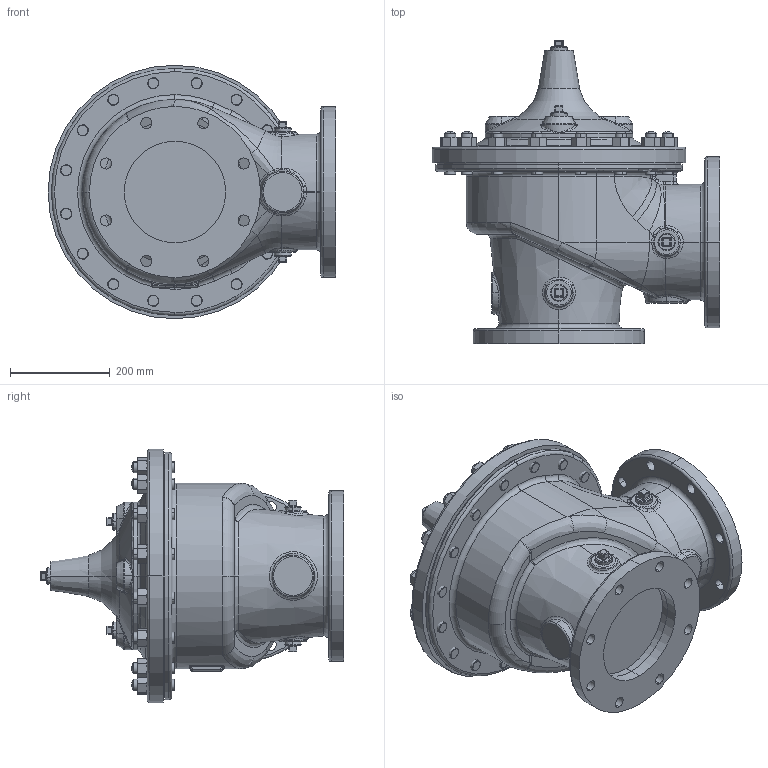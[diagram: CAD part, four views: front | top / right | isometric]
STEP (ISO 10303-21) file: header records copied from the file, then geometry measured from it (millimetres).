
FILE_DESCRIPTION (( 'STEP AP203' ), '1' );
FILE_NAME ('8in 100-01 Main Valve 150AA.STEP', '2016-07-14T17:15:37', ( '' ), ( '' ), 'SwSTEP 2.0', 'SolidWorks 2016', '' );
FILE_SCHEMA (( 'CONFIG_CONTROL_DESIGN' ));
Length unit declared in the file: inch
Products named in the file (6): 8in Body HyAn150 STD (BLUE)_DI, 150; 8in Cover 100-01_DI OR ALUM 2 bosses drld; 1.0 NPT SQ HD PIPE PLUG (67660)_18-8 SST; STUD .875-9 UNC (42784)_STEEL 3.408 LG  ; Hexnut .875-9 UNC (67814)_NUT, HEX REG   67814-02; 8in 100-01 Main Valve 150AA
Assembly tree (41 placements, depth 2):
  8in 100-01 Main Valve 150AA
    8in Body HyAn150 STD (BLUE)_DI, 150
    8in Cover 100-01_DI OR ALUM 2 bosses drld
    1.0 NPT SQ HD PIPE PLUG (67660)_18-8 SST  x7
    STUD .875-9 UNC (42784)_STEEL 3.408 LG    x16
    Hexnut .875-9 UNC (67814)_NUT, HEX REG   67814-02  x16
Bounding box: 576.33 x 607.7 x 508 mm (x, y, z)
Volume: 49188480.5 mm3; surface area: 1911451.4 mm2
Topology: 41 solids, 41 shells, 1222 faces, 2769 edges, 1611 vertices
Faces by surface type: cylinder 341, cone 329, plane 249, bspline 125, torus 112, sphere 66
Entity records: 27465 total; most frequent: CARTESIAN_POINT 12498, DIRECTION 2851, ORIENTED_EDGE 2790, EDGE_CURVE 1395, AXIS2_PLACEMENT_3D 1257, VERTEX_POINT 840, CIRCLE 749, EDGE_LOOP 715
